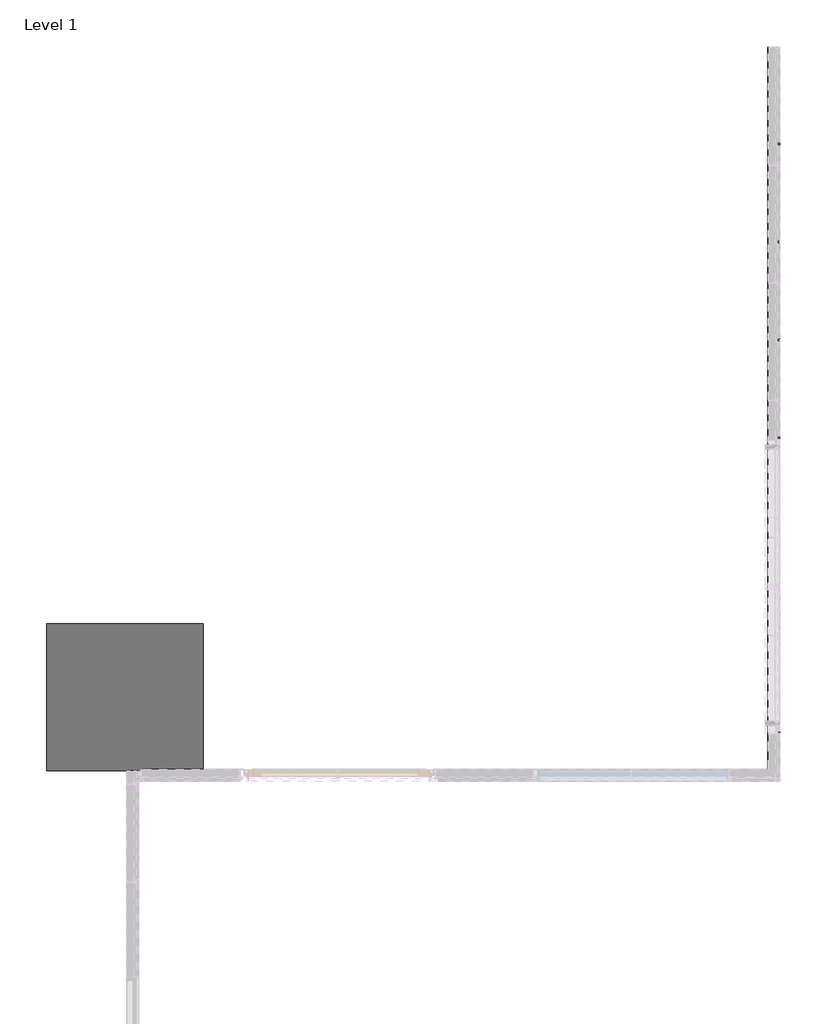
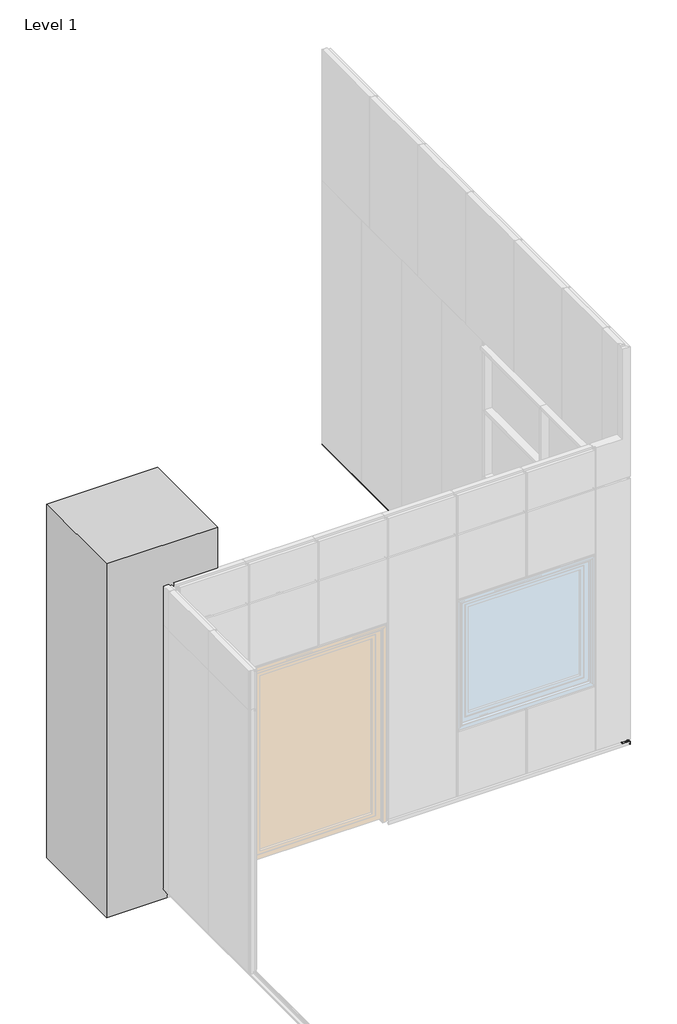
# One storey, part 8 of 8: 1 beam, 1 proxy.
"""IFC4 building model written with IfcOpenShell, lengths in millimetres."""

from ifc_helpers import new_model, si_unit, frame, origin, origin_with_axes, place, context, project, spatial, polyline, circle_curve, ellipse_curve, outline, extrude, faceted_brep, element, save
from ifc_brep_helpers import plane_surface, cylinder_surface, advanced_brep

model = new_model("IFC4")

# Units and contexts
model_context = context("Model", 3, world=origin())
ifc_project = project(units=[si_unit("LENGTHUNIT", "METRE", prefix="MILLI")], contexts=[model_context])

# Site, building, storey
site = spatial("IfcSite", under=ifc_project)
building = spatial("IfcBuilding", under=site)
storey = spatial("IfcBuildingStorey", under=building, Name="Level 1", Elevation=0.0)

# Beam
placement = place(None, origin())
element("IfcBeam", 1, ObjectType="QO-V-02_01 Base : Base detail", at=placement, inside=storey, context=model_context, shape_type="SolidModel", body=[
    faceted_brep([(-55.0, 15484.9, 162.7), (-55.0, 15484.9, 137.7), (0.0, 15484.9, 132.8881235), (0.0, 15484.9, 82.8881235), (-17.6776695, 15484.9, 100.565793), (-17.1119841, 15484.9, 101.1314785), (-0.8, 15484.9, 84.8194944), (-0.8, 15484.9, 132.1550586), (-55.8, 15484.9, 136.9669351), (-55.8, 15484.9, 161.9), (-57.0, 15484.9, 161.9), (-57.0, 15484.9, 136.9), (-119.0315596, 15484.9, 136.9), (-121.5120749, 15484.9, 157.1021753), (-120.7180379, 15484.9, 157.1996708), (-118.3237794, 15484.9, 137.7), (-57.8, 15484.9, 137.7), (-57.8, 15484.9, 162.7), (-55.0, 7998.3720923, 162.7), (-57.8, 7998.3720923, 162.7), (-57.8, 7998.3720923, 137.7), (-118.3237794, 7998.3720923, 137.7), (-120.7180379, 7998.3720923, 157.1996708), (-121.5120749, 7998.3720923, 157.1021753), (-119.0315596, 7998.3720923, 136.9), (-57.0, 7998.3720923, 136.9), (-57.0, 7998.3720923, 161.9), (-55.8, 7998.3720923, 161.9), (-55.8, 7998.3720923, 136.9669351), (-0.8, 7998.3720923, 132.1550586), (-0.8, 7998.3720923, 84.8194944), (-17.1119841, 7998.3720923, 101.1314785), (-17.6776695, 7998.3720923, 100.565793), (0.0, 7998.3720923, 82.8881235), (0.0, 7998.3720923, 132.8881235), (-55.0, 7998.3720923, 137.7)], [[[0, 1, 2, 3, 4, 5, 6, 7, 8, 9, 10, 11, 12, 13, 14, 15, 16, 17]], [[18, 19, 20, 21, 22, 23, 24, 25, 26, 27, 28, 29, 30, 31, 32, 33, 34, 35]], [[9, 8, 28, 27]], [[10, 9, 27, 26]], [[11, 10, 26, 25]], [[12, 11, 25, 24]], [[13, 12, 24, 23]], [[14, 13, 23, 22]], [[15, 14, 22, 21]], [[16, 15, 21, 20]], [[17, 16, 20, 19]], [[0, 17, 19, 18]], [[1, 0, 18, 35]], [[2, 1, 35, 34]], [[3, 2, 34, 33]], [[4, 3, 33, 32]], [[5, 4, 32, 31]], [[6, 5, 31, 30]], [[7, 6, 30, 29]], [[8, 7, 29, 28]]]),
    faceted_brep([(-55.0, 15484.9, 162.7), (-55.0, 15484.9, 137.7), (0.0, 15484.9, 132.8881235), (0.0, 15484.9, 82.8881235), (-17.6776695, 15484.9, 100.565793), (-17.1119841, 15484.9, 101.1314785), (-0.8, 15484.9, 84.8194944), (-0.8, 15484.9, 132.1550586), (-55.8, 15484.9, 136.9669351), (-55.8, 15484.9, 161.9), (-57.0, 15484.9, 161.9), (-57.0, 15484.9, 136.9), (-119.0315596, 15484.9, 136.9), (-121.5120749, 15484.9, 157.1021753), (-120.7180379, 15484.9, 157.1996708), (-118.3237794, 15484.9, 137.7), (-57.8, 15484.9, 137.7), (-57.8, 15484.9, 162.7), (-55.0, 8055.0335928, 162.7), (-55.0, 8055.0335928, 137.7), (0.0, 8000.0335928, 132.8881235), (0.0, 8000.0335928, 82.8881235), (-17.6776695, 8017.7112623, 100.565793), (-17.1119841, 8017.1455769, 101.1314785), (-0.8, 8000.8335928, 84.8194944), (-0.8, 8000.8335928, 132.1550586), (-55.8, 8055.8335928, 136.9669351), (-55.8, 8055.8335928, 161.9), (-57.0, 8057.0335928, 161.9), (-57.0, 8057.0335928, 136.9), (-119.0315596, 8119.0651524, 136.9), (-121.5120749, 8121.5456676, 157.1021753), (-120.7180379, 8120.7516307, 157.1996708), (-118.3237794, 8118.3573722, 137.7), (-57.8, 8057.8335928, 137.7), (-57.8, 8057.8335928, 162.7)], [[[0, 1, 2, 3, 4, 5, 6, 7, 8, 9, 10, 11, 12, 13, 14, 15, 16, 17]], [[1, 0, 18, 19]], [[2, 1, 19, 20]], [[3, 2, 20, 21]], [[4, 3, 21, 22]], [[5, 4, 22, 23]], [[6, 5, 23, 24]], [[7, 6, 24, 25]], [[8, 7, 25, 26]], [[9, 8, 26, 27]], [[10, 9, 27, 28]], [[11, 10, 28, 29]], [[12, 11, 29, 30]], [[13, 12, 30, 31]], [[14, 13, 31, 32]], [[15, 14, 32, 33]], [[16, 15, 33, 34]], [[17, 16, 34, 35]], [[0, 17, 35, 18]], [[27, 26, 25, 24, 23, 22, 21, 20, 19, 18, 35, 34, 33, 32, 31, 30, 29, 28]]]),
    advanced_brep(
    [(-34.6160805, 7998.3720923, 149.5524124), (-25.5027713, 7998.3720923, 149.5524124), (-25.5027713, 7998.3720923, 141.8841366), (-24.5783623, 7998.3720923, 140.3521612), (-24.0029396, 7998.3720923, 140.5123199), (-24.0029396, 7998.3720923, 159.8923428), (-24.5783623, 7998.3720923, 160.0525015), (-25.5027713, 7998.3720923, 158.5205261), (-25.5027713, 7998.3720923, 150.8524124), (-34.6160805, 7998.3720923, 150.8524124), (-34.6160805, 7998.3720923, 152.3674381), (-35.9759407, 7998.3720923, 150.5546092), (-36.7759407, 7998.3720923, 150.5546092), (-36.7759407, 7998.3720923, 152.5561345), (-34.317153, 7998.3720923, 152.5561345), (-34.317153, 7998.3720923, 151.4879019), (-26.5392087, 7998.3720923, 151.4879019), (-26.0150519, 7998.3720923, 151.9872786), (-26.0150519, 7998.3720923, 162.7010847), (-36.190378, 7998.3720923, 162.7010847), (-36.790378, 7998.3720923, 162.1010847), (-36.790378, 7998.3720923, 156.562561), (-39.6058207, 7998.3720923, 156.562561), (-39.6058207, 7998.3720923, 159.161162), (-43.8493822, 7998.3720923, 157.6224126), (-40.3004498, 7998.3720923, 154.5991903), (-40.3004498, 7998.3720923, 145.8056345), (-43.8493822, 7998.3720923, 142.7824121), (-39.6058207, 7998.3720923, 141.2436628), (-39.6058207, 7998.3720923, 143.8422638), (-36.790378, 7998.3720923, 143.8422638), (-36.790378, 7998.3720923, 138.3037401), (-36.190378, 7998.3720923, 137.7037401), (-26.0150519, 7998.3720923, 137.7037401), (-26.0150519, 7998.3720923, 148.4175462), (-26.5392087, 7998.3720923, 148.9169229), (-34.317153, 7998.3720923, 148.9169229), (-34.317153, 7998.3720923, 147.8486903), (-36.7759407, 7998.3720923, 147.8486903), (-36.7759407, 7998.3720923, 149.8502156), (-35.9759407, 7998.3720923, 149.8502156), (-34.6160805, 7998.3720923, 148.0373867), (-34.6160805, 15484.9, 149.5524124), (-34.6160805, 15484.9, 148.0373867), (-35.9759407, 15484.9, 149.8502156), (-36.7759407, 15484.9, 149.8502156), (-36.7759407, 15484.9, 147.8486903), (-34.317153, 15484.9, 147.8486903), (-34.317153, 15484.9, 148.9169229), (-26.5392087, 15484.9, 148.9169229), (-26.0150519, 15484.9, 148.4175462), (-26.0150519, 15484.9, 137.7037401), (-36.190378, 15484.9, 137.7037401), (-36.790378, 15484.9, 138.3037401), (-36.790378, 15484.9, 143.8422638), (-39.6058207, 15484.9, 143.8422638), (-39.6058207, 15484.9, 141.2436628), (-43.8493822, 15484.9, 142.7824121), (-40.3004498, 15484.9, 145.8056345), (-40.3004498, 15484.9, 154.5991903), (-43.8493822, 15484.9, 157.6224126), (-39.6058207, 15484.9, 159.161162), (-39.6058207, 15484.9, 156.562561), (-36.790378, 15484.9, 156.562561), (-36.790378, 15484.9, 162.1010847), (-36.190378, 15484.9, 162.7010847), (-26.0150519, 15484.9, 162.7010847), (-26.0150519, 15484.9, 151.9872786), (-26.5392087, 15484.9, 151.4879019), (-34.317153, 15484.9, 151.4879019), (-34.317153, 15484.9, 152.5561345), (-36.7759407, 15484.9, 152.5561345), (-36.7759407, 15484.9, 150.5546092), (-35.9759407, 15484.9, 150.5546092), (-34.6160805, 15484.9, 152.3674381), (-34.6160805, 15484.9, 150.8524124), (-25.5027713, 15484.9, 150.8524124), (-25.5027713, 15484.9, 158.5205261), (-24.5783623, 15484.9, 160.0525015), (-24.0029396, 15484.9, 159.8923428), (-24.0029396, 15484.9, 140.5123199), (-24.5783623, 15484.9, 140.3521612), (-25.5027713, 15484.9, 141.8841366), (-25.5027713, 15484.9, 149.5524124)],
    [
        (0, 1),
        (1, 2),
        (2, 3),
        (3, 4, circle_curve(frame((-24.3129396, 7998.3720923, 140.5123199), z_axis=(0.0, -1.0, 0.0), x_axis=(0.0, 0.0, 1.0)), 0.31)),
        (4, 5),
        (5, 6, circle_curve(frame((-24.3129396, 7998.3720923, 159.8923428), z_axis=(0.0, -1.0, 0.0), x_axis=(0.0, 0.0, 1.0)), 0.31)),
        (6, 7),
        (7, 8),
        (8, 9),
        (9, 10),
        (10, 11),
        (11, 12),
        (12, 13),
        (13, 14),
        (14, 15),
        (15, 16),
        (16, 17, circle_curve(frame((-26.5150144, 7998.3720923, 151.9872786), z_axis=(0.0, -1.0, 0.0), x_axis=(0.0, 0.0, -1.0)), 0.4999625)),
        (17, 18),
        (18, 19),
        (19, 20, circle_curve(frame((-36.190378, 7998.3720923, 162.1010847), z_axis=(0.0, -1.0, 0.0), x_axis=(0.0, 0.0, -1.0)), 0.6)),
        (20, 21),
        (21, 22),
        (22, 23),
        (23, 24),
        (24, 25),
        (25, 26),
        (26, 27),
        (27, 28),
        (28, 29),
        (29, 30),
        (30, 31),
        (31, 32, circle_curve(frame((-36.190378, 7998.3720923, 138.3037401), z_axis=(0.0, -1.0, 0.0), x_axis=(0.0, 0.0, -1.0)), 0.6)),
        (32, 33),
        (33, 34),
        (34, 35, circle_curve(frame((-26.5150144, 7998.3720923, 148.4175462), z_axis=(0.0, -1.0, 0.0), x_axis=(0.0, 0.0, -1.0)), 0.4999625)),
        (35, 36),
        (36, 37),
        (37, 38),
        (38, 39),
        (39, 40),
        (40, 41),
        (41, 0),
        (42, 43),
        (43, 44),
        (44, 45),
        (45, 46),
        (46, 47),
        (47, 48),
        (48, 49),
        (49, 50, circle_curve(frame((-26.5150144, 15484.9, 148.4175462), z_axis=(0.0, 1.0, 0.0), x_axis=(0.0, 0.0, -1.0)), 0.4999625)),
        (50, 51),
        (51, 52),
        (52, 53, circle_curve(frame((-36.190378, 15484.9, 138.3037401), z_axis=(0.0, 1.0, 0.0), x_axis=(0.0, 0.0, -1.0)), 0.6)),
        (53, 54),
        (54, 55),
        (55, 56),
        (56, 57),
        (57, 58),
        (58, 59),
        (59, 60),
        (60, 61),
        (61, 62),
        (62, 63),
        (63, 64),
        (64, 65, circle_curve(frame((-36.190378, 15484.9, 162.1010847), z_axis=(0.0, 1.0, 0.0), x_axis=(0.0, 0.0, -1.0)), 0.6)),
        (65, 66),
        (66, 67),
        (67, 68, circle_curve(frame((-26.5150144, 15484.9, 151.9872786), z_axis=(0.0, 1.0, 0.0), x_axis=(0.0, 0.0, -1.0)), 0.4999625)),
        (68, 69),
        (69, 70),
        (70, 71),
        (71, 72),
        (72, 73),
        (73, 74),
        (74, 75),
        (75, 76),
        (76, 77),
        (77, 78),
        (78, 79, circle_curve(frame((-24.3129396, 15484.9, 159.8923428), z_axis=(0.0, 1.0, 0.0), x_axis=(0.0, 0.0, 1.0)), 0.31)),
        (79, 80),
        (80, 81, circle_curve(frame((-24.3129396, 15484.9, 140.5123199), z_axis=(0.0, 1.0, 0.0), x_axis=(0.0, 0.0, 1.0)), 0.31)),
        (81, 82),
        (82, 83),
        (83, 42),
        (0, 42),
        (83, 1),
        (82, 2),
        (81, 3),
        (80, 4),
        (79, 5),
        (78, 6),
        (77, 7),
        (76, 8),
        (75, 9),
        (74, 10),
        (73, 11),
        (72, 12),
        (71, 13),
        (70, 14),
        (69, 15),
        (68, 16),
        (67, 17),
        (66, 18),
        (65, 19),
        (64, 20),
        (63, 21),
        (62, 22),
        (61, 23),
        (60, 24),
        (59, 25),
        (58, 26),
        (57, 27),
        (56, 28),
        (55, 29),
        (54, 30),
        (53, 31),
        (52, 32),
        (51, 33),
        (50, 34),
        (49, 35),
        (48, 36),
        (47, 37),
        (46, 38),
        (45, 39),
        (44, 40),
        (43, 41),
    ],
    [
        plane_surface(frame((0.0, 7998.3720923, 162.7), z_axis=(0.0, -1.0, 0.0), x_axis=(0.0, 0.0, 1.0))),
        plane_surface(frame((0.0, 15484.9, 162.7), z_axis=(0.0, 1.0, 0.0), x_axis=(0.0, 0.0, 1.0))),
        plane_surface(frame((-34.6160805, 7998.3720923, 149.5524124), z_axis=(0.0, 0.0, -1.0), x_axis=(0.0, 1.0, 0.0))),
        plane_surface(frame((-25.5027713, 7998.3720923, 149.5524124), z_axis=(-1.0, 0.0, 0.0), x_axis=(0.0, 1.0, 0.0))),
        plane_surface(frame((-25.5027713, 7998.3720923, 141.8841366), z_axis=(-0.8562022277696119, 0.0, -0.5166408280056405), x_axis=(0.0, 1.0, 0.0))),
        cylinder_surface(frame((-24.3129396, 7998.3720923, 140.5123199), z_axis=(0.0, -1.0, 0.0), x_axis=(0.0, 0.0, 1.0)), 0.31),
        plane_surface(frame((-24.0029396, 7998.3720923, 140.5123199), z_axis=(1.0, 0.0, 0.0), x_axis=(0.0, 1.0, 0.0))),
        cylinder_surface(frame((-24.3129396, 7998.3720923, 159.8923428), z_axis=(0.0, -1.0, 0.0), x_axis=(0.0, 0.0, 1.0)), 0.31),
        plane_surface(frame((-24.5783623, 7998.3720923, 160.0525015), z_axis=(-0.8562022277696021, 0.0, 0.5166408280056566), x_axis=(0.0, 1.0, 0.0))),
        plane_surface(frame((-25.5027713, 7998.3720923, 158.5205261), z_axis=(-1.0, 0.0, 0.0), x_axis=(0.0, 1.0, 0.0))),
        plane_surface(frame((-25.5027713, 7998.3720923, 150.8524124), z_axis=(0.0, 0.0, 1.0), x_axis=(0.0, 1.0, 0.0))),
        plane_surface(frame((-34.6160805, 7998.3720923, 150.8524124), z_axis=(1.0, 0.0, 0.0), x_axis=(0.0, 1.0, 0.0))),
        plane_surface(frame((-34.6160805, 7998.3720923, 152.3674381), z_axis=(-0.7999494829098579, 0.0, 0.6000673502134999), x_axis=(0.0, 1.0, 0.0))),
        plane_surface(frame((-35.9759407, 7998.3720923, 150.5546092), z_axis=(0.0, 0.0, 1.0), x_axis=(0.0, 1.0, 0.0))),
        plane_surface(frame((-36.7759407, 7998.3720923, 150.5546092), z_axis=(1.0, 0.0, 0.0), x_axis=(0.0, 1.0, 0.0))),
        plane_surface(frame((-36.7759407, 7998.3720923, 152.5561345), z_axis=(0.0, 0.0, -1.0), x_axis=(0.0, 1.0, 0.0))),
        plane_surface(frame((-34.317153, 7998.3720923, 152.5561345), z_axis=(-1.0, 0.0, 0.0), x_axis=(0.0, 1.0, 0.0))),
        plane_surface(frame((-34.317153, 7998.3720923, 151.4879019), z_axis=(0.0, 0.0, -1.0), x_axis=(0.0, 1.0, 0.0))),
        cylinder_surface(frame((-26.5150144, 7998.3720923, 151.9872786), z_axis=(0.0, -1.0, 0.0), x_axis=(0.0, 0.0, -1.0)), 0.4999625),
        plane_surface(frame((-26.0150519, 7998.3720923, 151.9872786), z_axis=(1.0, 0.0, 0.0), x_axis=(0.0, 1.0, 0.0))),
        plane_surface(frame((-26.0150519, 7998.3720923, 162.7010847), z_axis=(0.0, 0.0, 1.0), x_axis=(0.0, 1.0, 0.0))),
        cylinder_surface(frame((-36.190378, 7998.3720923, 162.1010847), z_axis=(0.0, -1.0, 0.0), x_axis=(0.0, 0.0, -1.0)), 0.6),
        plane_surface(frame((-36.790378, 7998.3720923, 162.1010847), z_axis=(-1.0, 0.0, 0.0), x_axis=(0.0, 1.0, 0.0))),
        plane_surface(frame((-36.790378, 7998.3720923, 156.562561), z_axis=(0.0, 0.0, 1.0), x_axis=(0.0, 1.0, 0.0))),
        plane_surface(frame((-39.6058207, 7998.3720923, 156.562561), z_axis=(1.0, 0.0, 0.0), x_axis=(0.0, 1.0, 0.0))),
        plane_surface(frame((-39.6058207, 7998.3720923, 159.161162), z_axis=(-0.3408890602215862, 0.0, 0.9401035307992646), x_axis=(0.0, 1.0, 0.0))),
        plane_surface(frame((-43.8493822, 7998.3720923, 157.6224126), z_axis=(-0.6484736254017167, 0.0, -0.7612371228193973), x_axis=(0.0, 1.0, 0.0))),
        plane_surface(frame((-40.3004498, 7998.3720923, 154.5991903), z_axis=(-1.0, 0.0, 0.0), x_axis=(0.0, 1.0, 0.0))),
        plane_surface(frame((-40.3004498, 7998.3720923, 145.8056345), z_axis=(-0.6484736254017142, 0.0, 0.7612371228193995), x_axis=(0.0, 1.0, 0.0))),
        plane_surface(frame((-43.8493822, 7998.3720923, 142.7824121), z_axis=(-0.34088906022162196, 0.0, -0.9401035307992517), x_axis=(0.0, 1.0, 0.0))),
        plane_surface(frame((-39.6058207, 7998.3720923, 141.2436628), z_axis=(1.0, 0.0, 0.0), x_axis=(0.0, 1.0, 0.0))),
        plane_surface(frame((-39.6058207, 7998.3720923, 143.8422638), z_axis=(0.0, 0.0, -1.0), x_axis=(0.0, 1.0, 0.0))),
        plane_surface(frame((-36.790378, 7998.3720923, 143.8422638), z_axis=(-1.0, 0.0, 0.0), x_axis=(0.0, 1.0, 0.0))),
        cylinder_surface(frame((-36.190378, 7998.3720923, 138.3037401), z_axis=(0.0, -1.0, 0.0), x_axis=(0.0, 0.0, -1.0)), 0.6),
        plane_surface(frame((-36.190378, 7998.3720923, 137.7037401), z_axis=(0.0, 0.0, -1.0), x_axis=(0.0, 1.0, 0.0))),
        plane_surface(frame((-26.0150519, 7998.3720923, 137.7037401), z_axis=(1.0, 0.0, 0.0), x_axis=(0.0, 1.0, 0.0))),
        cylinder_surface(frame((-26.5150144, 7998.3720923, 148.4175462), z_axis=(0.0, -1.0, 0.0), x_axis=(0.0, 0.0, -1.0)), 0.4999625),
        plane_surface(frame((-26.5392087, 7998.3720923, 148.9169229), z_axis=(0.0, 0.0, 1.0), x_axis=(0.0, 1.0, 0.0))),
        plane_surface(frame((-34.317153, 7998.3720923, 148.9169229), z_axis=(-1.0, 0.0, 0.0), x_axis=(0.0, 1.0, 0.0))),
        plane_surface(frame((-34.317153, 7998.3720923, 147.8486903), z_axis=(0.0, 0.0, 1.0), x_axis=(0.0, 1.0, 0.0))),
        plane_surface(frame((-36.7759407, 7998.3720923, 147.8486903), z_axis=(1.0, 0.0, 0.0), x_axis=(0.0, 1.0, 0.0))),
        plane_surface(frame((-36.7759407, 7998.3720923, 149.8502156), z_axis=(0.0, 0.0, -1.0), x_axis=(0.0, 1.0, 0.0))),
        plane_surface(frame((-35.9759407, 7998.3720923, 149.8502156), z_axis=(-0.7999494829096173, 0.0, -0.6000673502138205), x_axis=(0.0, 1.0, 0.0))),
        plane_surface(frame((-34.6160805, 7998.3720923, 148.0373867), z_axis=(1.0, 0.0, 0.0), x_axis=(0.0, 1.0, 0.0))),
    ],
    [
        (0, [[1, 2, 3, 4, 5, 6, 7, 8, 9, 10, 11, 12, 13, 14, 15, 16, 17, 18, 19, 20, 21, 22, 23, 24, 25, 26, 27, 28, 29, 30, 31, 32, 33, 34, 35, 36, 37, 38, 39, 40, 41, 42]]),
        (1, [[43, 44, 45, 46, 47, 48, 49, 50, 51, 52, 53, 54, 55, 56, 57, 58, 59, 60, 61, 62, 63, 64, 65, 66, 67, 68, 69, 70, 71, 72, 73, 74, 75, 76, 77, 78, 79, 80, 81, 82, 83, 84]]),
        (2, [[-1, 85, -84, 86]]),
        (3, [[-2, -86, -83, 87]]),
        (4, [[-3, -87, -82, 88]]),
        (5, [[-4, -88, -81, 89]]),
        (6, [[-5, -89, -80, 90]]),
        (7, [[-6, -90, -79, 91]]),
        (8, [[-7, -91, -78, 92]]),
        (9, [[-8, -92, -77, 93]]),
        (10, [[-9, -93, -76, 94]]),
        (11, [[-10, -94, -75, 95]]),
        (12, [[-11, -95, -74, 96]]),
        (13, [[-12, -96, -73, 97]]),
        (14, [[-13, -97, -72, 98]]),
        (15, [[-14, -98, -71, 99]]),
        (16, [[-15, -99, -70, 100]]),
        (17, [[-16, -100, -69, 101]]),
        (18, [[-17, -101, -68, 102]]),
        (19, [[-18, -102, -67, 103]]),
        (20, [[-19, -103, -66, 104]]),
        (21, [[-20, -104, -65, 105]]),
        (22, [[-21, -105, -64, 106]]),
        (23, [[-22, -106, -63, 107]]),
        (24, [[-23, -107, -62, 108]]),
        (25, [[-24, -108, -61, 109]]),
        (26, [[-25, -109, -60, 110]]),
        (27, [[-26, -110, -59, 111]]),
        (28, [[-27, -111, -58, 112]]),
        (29, [[-28, -112, -57, 113]]),
        (30, [[-29, -113, -56, 114]]),
        (31, [[-30, -114, -55, 115]]),
        (32, [[-31, -115, -54, 116]]),
        (33, [[-32, -116, -53, 117]]),
        (34, [[-33, -117, -52, 118]]),
        (35, [[-34, -118, -51, 119]]),
        (36, [[-35, -119, -50, 120]]),
        (37, [[-36, -120, -49, 121]]),
        (38, [[-37, -121, -48, 122]]),
        (39, [[-38, -122, -47, 123]]),
        (40, [[-39, -123, -46, 124]]),
        (41, [[-40, -124, -45, 125]]),
        (42, [[-41, -125, -44, 126]]),
        (43, [[-42, -126, -43, -85]]),
    ],
),
    advanced_brep(
    [(-34.6160805, 15484.9, 149.5524124), (-34.6160805, 15484.9, 148.0373867), (-35.9759407, 15484.9, 149.8502156), (-36.7759407, 15484.9, 149.8502156), (-36.7759407, 15484.9, 147.8486903), (-34.317153, 15484.9, 147.8486903), (-34.317153, 15484.9, 148.9169229), (-26.5392087, 15484.9, 148.9169229), (-26.0150519, 15484.9, 148.4175462), (-26.0150519, 15484.9, 137.7037401), (-36.190378, 15484.9, 137.7037401), (-36.790378, 15484.9, 138.3037401), (-36.790378, 15484.9, 143.8422638), (-39.6058207, 15484.9, 143.8422638), (-39.6058207, 15484.9, 141.2436628), (-43.8493822, 15484.9, 142.7824121), (-40.3004498, 15484.9, 145.8056345), (-40.3004498, 15484.9, 154.5991903), (-43.8493822, 15484.9, 157.6224126), (-39.6058207, 15484.9, 159.161162), (-39.6058207, 15484.9, 156.562561), (-36.790378, 15484.9, 156.562561), (-36.790378, 15484.9, 162.1010847), (-36.190378, 15484.9, 162.7010847), (-26.0150519, 15484.9, 162.7010847), (-26.0150519, 15484.9, 151.9872786), (-26.5392087, 15484.9, 151.4879019), (-34.317153, 15484.9, 151.4879019), (-34.317153, 15484.9, 152.5561345), (-36.7759407, 15484.9, 152.5561345), (-36.7759407, 15484.9, 150.5546092), (-35.9759407, 15484.9, 150.5546092), (-34.6160805, 15484.9, 152.3674381), (-34.6160805, 15484.9, 150.8524124), (-25.5027713, 15484.9, 150.8524124), (-25.5027713, 15484.9, 158.5205261), (-24.5783623, 15484.9, 160.0525015), (-24.0029396, 15484.9, 159.8923428), (-24.0029396, 15484.9, 140.5123199), (-24.5783623, 15484.9, 140.3521612), (-25.5027713, 15484.9, 141.8841366), (-25.5027713, 15484.9, 149.5524124), (-34.6160805, 8034.6496733, 148.0373867), (-34.6160805, 8034.6496733, 149.5524124), (-35.9759407, 8036.0095335, 149.8502156), (-36.7759407, 8036.8095335, 149.8502156), (-36.7759407, 8036.8095335, 147.8486903), (-34.317153, 8034.3507458, 147.8486903), (-34.317153, 8034.3507458, 148.9169229), (-26.5392087, 8026.5728015, 148.9169229), (-26.0150519, 8026.0486447, 148.4175462), (-26.0150519, 8026.0486447, 137.7037401), (-36.190378, 8036.2239708, 137.7037401), (-36.790378, 8036.8239708, 138.3037401), (-36.790378, 8036.8239708, 143.8422638), (-39.6058207, 8039.6394135, 143.8422638), (-39.6058207, 8039.6394135, 141.2436628), (-43.8493822, 8043.882975, 142.7824121), (-40.3004498, 8040.3340426, 145.8056345), (-40.3004498, 8040.3340426, 154.5991903), (-43.8493822, 8043.882975, 157.6224126), (-39.6058207, 8039.6394135, 159.161162), (-39.6058207, 8039.6394135, 156.562561), (-36.790378, 8036.8239708, 156.562561), (-36.790378, 8036.8239708, 162.1010847), (-36.190378, 8036.2239708, 162.7010847), (-26.0150519, 8026.0486447, 162.7010847), (-26.0150519, 8026.0486447, 151.9872786), (-26.5392087, 8026.5728015, 151.4879019), (-34.317153, 8034.3507458, 151.4879019), (-34.317153, 8034.3507458, 152.5561345), (-36.7759407, 8036.8095335, 152.5561345), (-36.7759407, 8036.8095335, 150.5546092), (-35.9759407, 8036.0095335, 150.5546092), (-34.6160805, 8034.6496733, 152.3674381), (-34.6160805, 8034.6496733, 150.8524124), (-25.5027713, 8025.536364, 150.8524124), (-25.5027713, 8025.536364, 158.5205261), (-24.5783623, 8024.6119551, 160.0525015), (-24.0029396, 8024.0365324, 159.8923428), (-24.0029396, 8024.0365324, 140.5123199), (-24.5783623, 8024.6119551, 140.3521612), (-25.5027713, 8025.536364, 141.8841366), (-25.5027713, 8025.536364, 149.5524124)],
    [
        (0, 1),
        (1, 2),
        (2, 3),
        (3, 4),
        (4, 5),
        (5, 6),
        (6, 7),
        (7, 8, circle_curve(frame((-26.5150144, 15484.9, 148.4175462), z_axis=(0.0, 1.0, 0.0), x_axis=(0.0, 0.0, -1.0)), 0.4999625)),
        (8, 9),
        (9, 10),
        (10, 11, circle_curve(frame((-36.190378, 15484.9, 138.3037401), z_axis=(0.0, 1.0, 0.0), x_axis=(0.0, 0.0, -1.0)), 0.6)),
        (11, 12),
        (12, 13),
        (13, 14),
        (14, 15),
        (15, 16),
        (16, 17),
        (17, 18),
        (18, 19),
        (19, 20),
        (20, 21),
        (21, 22),
        (22, 23, circle_curve(frame((-36.190378, 15484.9, 162.1010847), z_axis=(0.0, 1.0, 0.0), x_axis=(0.0, 0.0, -1.0)), 0.6)),
        (23, 24),
        (24, 25),
        (25, 26, circle_curve(frame((-26.5150144, 15484.9, 151.9872786), z_axis=(0.0, 1.0, 0.0), x_axis=(0.0, 0.0, -1.0)), 0.4999625)),
        (26, 27),
        (27, 28),
        (28, 29),
        (29, 30),
        (30, 31),
        (31, 32),
        (32, 33),
        (33, 34),
        (34, 35),
        (35, 36),
        (36, 37, circle_curve(frame((-24.3129396, 15484.9, 159.8923428), z_axis=(0.0, 1.0, 0.0), x_axis=(0.0, 0.0, 1.0)), 0.31)),
        (37, 38),
        (38, 39, circle_curve(frame((-24.3129396, 15484.9, 140.5123199), z_axis=(0.0, 1.0, 0.0), x_axis=(0.0, 0.0, 1.0)), 0.31)),
        (39, 40),
        (40, 41),
        (41, 0),
        (42, 1),
        (0, 43),
        (43, 42),
        (44, 2),
        (42, 44),
        (45, 3),
        (44, 45),
        (46, 4),
        (45, 46),
        (47, 5),
        (46, 47),
        (48, 6),
        (47, 48),
        (49, 7),
        (48, 49),
        (50, 8),
        (49, 50, ellipse_curve(frame((-26.5150144, 8026.5486072, 148.4175462), z_axis=(0.7071067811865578, 0.7071067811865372, 0.0), x_axis=(0.7071067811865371, -0.7071067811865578, 0.0)), 0.7070537, 0.4999625)),
        (51, 9),
        (50, 51),
        (52, 10),
        (51, 52),
        (53, 11),
        (52, 53, ellipse_curve(frame((-36.190378, 8036.2239708, 138.3037401), z_axis=(0.7071067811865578, 0.7071067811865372, 0.0), x_axis=(0.7071067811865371, -0.7071067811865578, 0.0)), 0.8485281, 0.6)),
        (54, 12),
        (53, 54),
        (55, 13),
        (54, 55),
        (56, 14),
        (55, 56),
        (57, 15),
        (56, 57),
        (58, 16),
        (57, 58),
        (59, 17),
        (58, 59),
        (60, 18),
        (59, 60),
        (61, 19),
        (60, 61),
        (62, 20),
        (61, 62),
        (63, 21),
        (62, 63),
        (64, 22),
        (63, 64),
        (65, 23),
        (64, 65, ellipse_curve(frame((-36.190378, 8036.2239708, 162.1010847), z_axis=(0.7071067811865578, 0.7071067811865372, 0.0), x_axis=(0.7071067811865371, -0.7071067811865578, 0.0)), 0.8485281, 0.6)),
        (66, 24),
        (65, 66),
        (67, 25),
        (66, 67),
        (68, 26),
        (67, 68, ellipse_curve(frame((-26.5150144, 8026.5486072, 151.9872786), z_axis=(0.7071067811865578, 0.7071067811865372, 0.0), x_axis=(0.7071067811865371, -0.7071067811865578, 0.0)), 0.7070537, 0.4999625)),
        (69, 27),
        (68, 69),
        (70, 28),
        (69, 70),
        (71, 29),
        (70, 71),
        (72, 30),
        (71, 72),
        (73, 31),
        (72, 73),
        (74, 32),
        (73, 74),
        (75, 33),
        (74, 75),
        (76, 34),
        (75, 76),
        (77, 35),
        (76, 77),
        (78, 36),
        (77, 78),
        (79, 37),
        (78, 79, ellipse_curve(frame((-24.3129396, 8024.3465324, 159.8923428), z_axis=(0.7071067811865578, 0.7071067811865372, 0.0), x_axis=(0.7071067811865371, -0.7071067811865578, 0.0)), 0.4384062, 0.31)),
        (80, 38),
        (79, 80),
        (81, 39),
        (80, 81, ellipse_curve(frame((-24.3129396, 8024.3465324, 140.5123199), z_axis=(0.7071067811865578, 0.7071067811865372, 0.0), x_axis=(0.7071067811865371, -0.7071067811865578, 0.0)), 0.4384062, 0.31)),
        (82, 40),
        (81, 82),
        (83, 41),
        (82, 83),
        (83, 43),
    ],
    [
        plane_surface(frame((0.0, 15484.9, 162.7), z_axis=(0.0, 1.0, 0.0), x_axis=(0.0, 0.0, 1.0))),
        plane_surface(frame((-34.6160805, 7998.3720923, 148.0373867), z_axis=(1.0, 0.0, 0.0), x_axis=(0.0, 1.0, 0.0))),
        plane_surface(frame((-35.9759407, 7998.3720923, 149.8502156), z_axis=(-0.7999494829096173, 0.0, -0.6000673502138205), x_axis=(0.0, 1.0, 0.0))),
        plane_surface(frame((-36.7759407, 7998.3720923, 149.8502156), z_axis=(0.0, 0.0, -1.0), x_axis=(0.0, 1.0, 0.0))),
        plane_surface(frame((-36.7759407, 7998.3720923, 147.8486903), z_axis=(1.0, 0.0, 0.0), x_axis=(0.0, 1.0, 0.0))),
        plane_surface(frame((-34.317153, 7998.3720923, 147.8486903), z_axis=(0.0, 0.0, 1.0), x_axis=(0.0, 1.0, 0.0))),
        plane_surface(frame((-34.317153, 7998.3720923, 148.9169229), z_axis=(-1.0, 0.0, 0.0), x_axis=(0.0, 1.0, 0.0))),
        plane_surface(frame((-26.5392087, 7998.3720923, 148.9169229), z_axis=(0.0, 0.0, 1.0), x_axis=(0.0, 1.0, 0.0))),
        cylinder_surface(frame((-26.5150144, 7998.3720923, 148.4175462), z_axis=(0.0, -1.0, 0.0), x_axis=(0.0, 0.0, -1.0)), 0.4999625),
        plane_surface(frame((-26.0150519, 7998.3720923, 137.7037401), z_axis=(1.0, 0.0, 0.0), x_axis=(0.0, 1.0, 0.0))),
        plane_surface(frame((-36.190378, 7998.3720923, 137.7037401), z_axis=(0.0, 0.0, -1.0), x_axis=(0.0, 1.0, 0.0))),
        cylinder_surface(frame((-36.190378, 7998.3720923, 138.3037401), z_axis=(0.0, -1.0, 0.0), x_axis=(0.0, 0.0, -1.0)), 0.6),
        plane_surface(frame((-36.790378, 7998.3720923, 143.8422638), z_axis=(-1.0, 0.0, 0.0), x_axis=(0.0, 1.0, 0.0))),
        plane_surface(frame((-39.6058207, 7998.3720923, 143.8422638), z_axis=(0.0, 0.0, -1.0), x_axis=(0.0, 1.0, 0.0))),
        plane_surface(frame((-39.6058207, 7998.3720923, 141.2436628), z_axis=(1.0, 0.0, 0.0), x_axis=(0.0, 1.0, 0.0))),
        plane_surface(frame((-43.8493822, 7998.3720923, 142.7824121), z_axis=(-0.34088906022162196, 0.0, -0.9401035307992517), x_axis=(0.0, 1.0, 0.0))),
        plane_surface(frame((-40.3004498, 7998.3720923, 145.8056345), z_axis=(-0.6484736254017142, 0.0, 0.7612371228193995), x_axis=(0.0, 1.0, 0.0))),
        plane_surface(frame((-40.3004498, 7998.3720923, 154.5991903), z_axis=(-1.0, 0.0, 0.0), x_axis=(0.0, 1.0, 0.0))),
        plane_surface(frame((-43.8493822, 7998.3720923, 157.6224126), z_axis=(-0.6484736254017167, 0.0, -0.7612371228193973), x_axis=(0.0, 1.0, 0.0))),
        plane_surface(frame((-39.6058207, 7998.3720923, 159.161162), z_axis=(-0.3408890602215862, 0.0, 0.9401035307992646), x_axis=(0.0, 1.0, 0.0))),
        plane_surface(frame((-39.6058207, 7998.3720923, 156.562561), z_axis=(1.0, 0.0, 0.0), x_axis=(0.0, 1.0, 0.0))),
        plane_surface(frame((-36.790378, 7998.3720923, 156.562561), z_axis=(0.0, 0.0, 1.0), x_axis=(0.0, 1.0, 0.0))),
        plane_surface(frame((-36.790378, 7998.3720923, 162.1010847), z_axis=(-1.0, 0.0, 0.0), x_axis=(0.0, 1.0, 0.0))),
        cylinder_surface(frame((-36.190378, 7998.3720923, 162.1010847), z_axis=(0.0, -1.0, 0.0), x_axis=(0.0, 0.0, -1.0)), 0.6),
        plane_surface(frame((-26.0150519, 7998.3720923, 162.7010847), z_axis=(0.0, 0.0, 1.0), x_axis=(0.0, 1.0, 0.0))),
        plane_surface(frame((-26.0150519, 7998.3720923, 151.9872786), z_axis=(1.0, 0.0, 0.0), x_axis=(0.0, 1.0, 0.0))),
        cylinder_surface(frame((-26.5150144, 7998.3720923, 151.9872786), z_axis=(0.0, -1.0, 0.0), x_axis=(0.0, 0.0, -1.0)), 0.4999625),
        plane_surface(frame((-34.317153, 7998.3720923, 151.4879019), z_axis=(0.0, 0.0, -1.0), x_axis=(0.0, 1.0, 0.0))),
        plane_surface(frame((-34.317153, 7998.3720923, 152.5561345), z_axis=(-1.0, 0.0, 0.0), x_axis=(0.0, 1.0, 0.0))),
        plane_surface(frame((-36.7759407, 7998.3720923, 152.5561345), z_axis=(0.0, 0.0, -1.0), x_axis=(0.0, 1.0, 0.0))),
        plane_surface(frame((-36.7759407, 7998.3720923, 150.5546092), z_axis=(1.0, 0.0, 0.0), x_axis=(0.0, 1.0, 0.0))),
        plane_surface(frame((-35.9759407, 7998.3720923, 150.5546092), z_axis=(0.0, 0.0, 1.0), x_axis=(0.0, 1.0, 0.0))),
        plane_surface(frame((-34.6160805, 7998.3720923, 152.3674381), z_axis=(-0.7999494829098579, 0.0, 0.6000673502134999), x_axis=(0.0, 1.0, 0.0))),
        plane_surface(frame((-34.6160805, 7998.3720923, 150.8524124), z_axis=(1.0, 0.0, 0.0), x_axis=(0.0, 1.0, 0.0))),
        plane_surface(frame((-25.5027713, 7998.3720923, 150.8524124), z_axis=(0.0, 0.0, 1.0), x_axis=(0.0, 1.0, 0.0))),
        plane_surface(frame((-25.5027713, 7998.3720923, 158.5205261), z_axis=(-1.0, 0.0, 0.0), x_axis=(0.0, 1.0, 0.0))),
        plane_surface(frame((-24.5783623, 7998.3720923, 160.0525015), z_axis=(-0.8562022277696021, 0.0, 0.5166408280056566), x_axis=(0.0, 1.0, 0.0))),
        cylinder_surface(frame((-24.3129396, 7998.3720923, 159.8923428), z_axis=(0.0, -1.0, 0.0), x_axis=(0.0, 0.0, 1.0)), 0.31),
        plane_surface(frame((-24.0029396, 7998.3720923, 140.5123199), z_axis=(1.0, 0.0, 0.0), x_axis=(0.0, 1.0, 0.0))),
        cylinder_surface(frame((-24.3129396, 7998.3720923, 140.5123199), z_axis=(0.0, -1.0, 0.0), x_axis=(0.0, 0.0, 1.0)), 0.31),
        plane_surface(frame((-25.5027713, 7998.3720923, 141.8841366), z_axis=(-0.8562022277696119, 0.0, -0.5166408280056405), x_axis=(0.0, 1.0, 0.0))),
        plane_surface(frame((-25.5027713, 7998.3720923, 149.5524124), z_axis=(-1.0, 0.0, 0.0), x_axis=(0.0, 1.0, 0.0))),
        plane_surface(frame((-34.6160805, 7998.3720923, 149.5524124), z_axis=(0.0, 0.0, -1.0), x_axis=(0.0, 1.0, 0.0))),
        plane_surface(frame((0.0, 8000.0335928, 100000.0), z_axis=(-0.7071067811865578, -0.7071067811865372, 0.0), x_axis=(-0.7071067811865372, 0.7071067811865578, 0.0))),
    ],
    [
        (0, [[1, 2, 3, 4, 5, 6, 7, 8, 9, 10, 11, 12, 13, 14, 15, 16, 17, 18, 19, 20, 21, 22, 23, 24, 25, 26, 27, 28, 29, 30, 31, 32, 33, 34, 35, 36, 37, 38, 39, 40, 41, 42]]),
        (1, [[43, -1, 44, 45]]),
        (2, [[46, -2, -43, 47]]),
        (3, [[48, -3, -46, 49]]),
        (4, [[50, -4, -48, 51]]),
        (5, [[52, -5, -50, 53]]),
        (6, [[54, -6, -52, 55]]),
        (7, [[56, -7, -54, 57]]),
        (8, [[58, -8, -56, 59]]),
        (9, [[60, -9, -58, 61]]),
        (10, [[62, -10, -60, 63]]),
        (11, [[64, -11, -62, 65]]),
        (12, [[66, -12, -64, 67]]),
        (13, [[68, -13, -66, 69]]),
        (14, [[70, -14, -68, 71]]),
        (15, [[72, -15, -70, 73]]),
        (16, [[74, -16, -72, 75]]),
        (17, [[76, -17, -74, 77]]),
        (18, [[78, -18, -76, 79]]),
        (19, [[80, -19, -78, 81]]),
        (20, [[82, -20, -80, 83]]),
        (21, [[84, -21, -82, 85]]),
        (22, [[86, -22, -84, 87]]),
        (23, [[88, -23, -86, 89]]),
        (24, [[90, -24, -88, 91]]),
        (25, [[92, -25, -90, 93]]),
        (26, [[94, -26, -92, 95]]),
        (27, [[96, -27, -94, 97]]),
        (28, [[98, -28, -96, 99]]),
        (29, [[100, -29, -98, 101]]),
        (30, [[102, -30, -100, 103]]),
        (31, [[104, -31, -102, 105]]),
        (32, [[106, -32, -104, 107]]),
        (33, [[108, -33, -106, 109]]),
        (34, [[110, -34, -108, 111]]),
        (35, [[112, -35, -110, 113]]),
        (36, [[114, -36, -112, 115]]),
        (37, [[116, -37, -114, 117]]),
        (38, [[118, -38, -116, 119]]),
        (39, [[120, -39, -118, 121]]),
        (40, [[122, -40, -120, 123]]),
        (41, [[124, -41, -122, 125]]),
        (42, [[-44, -42, -124, 126]]),
        (43, [[-126, -125, -123, -121, -119, -117, -115, -113, -111, -109, -107, -105, -103, -101, -99, -97, -95, -93, -91, -89, -87, -85, -83, -81, -79, -77, -75, -73, -71, -69, -67, -65, -63, -61, -59, -57, -55, -53, -51, -49, -47, -45]]),
    ],
),
])

# Proxy
element("IfcBuildingElementProxy", 2, Name="Mass 3 : Mass 3", ObjectType="Mass 3 : Mass 3", at=placement, inside=storey, context=model_context, shape_type="SweptSolid", body=[
    extrude(outline(polyline([(-7485.159995, 8107.3916111), (-7485.159995, 9607.3916111), (-5885.159995, 9607.3916111), (-5885.159995, 8107.3916111), (-7485.159995, 8107.3916111)])), origin_with_axes(), (0.0, 0.0, 1.0), 5386.1599235),
])

save(model, "model.ifc")
